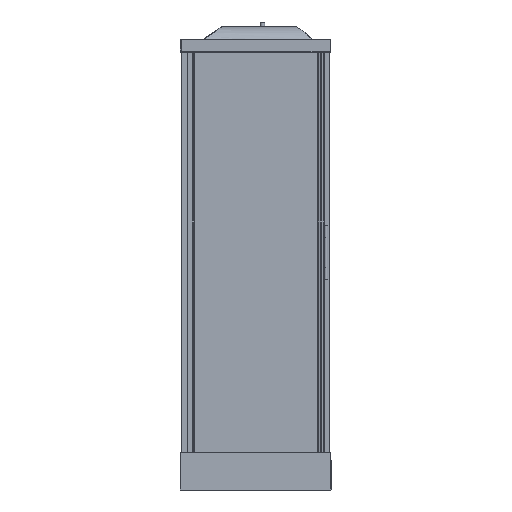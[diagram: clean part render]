
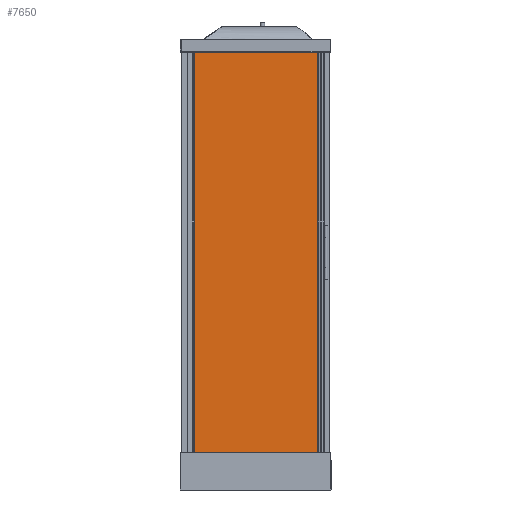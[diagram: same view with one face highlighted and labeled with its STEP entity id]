
A CAD part, left-side view. The second image highlights one B-rep face of the part: STEP entity #7650.
In plain terms, the highlighted planar face has unit normal (-1, 0, 0).
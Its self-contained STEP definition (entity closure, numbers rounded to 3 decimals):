
#7530=CARTESIAN_POINT('',(-961.316,-57.31,163.888));
#7531=VERTEX_POINT('',#7530);
#7538=CARTESIAN_POINT('',(-961.316,-57.31,2060.888));
#7539=VERTEX_POINT('',#7538);
#7540=CARTESIAN_POINT('',(-961.316,-57.31,2060.888));
#7541=DIRECTION('',(0.0,0.0,-1.0));
#7542=VECTOR('',#7541,1897.0);
#7543=LINE('',#7540,#7542);
#7544=EDGE_CURVE('',#7539,#7531,#7543,.T.);
#7568=CARTESIAN_POINT('',(-961.316,-650.31,163.888));
#7569=VERTEX_POINT('',#7568);
#7576=CARTESIAN_POINT('',(-961.316,-57.31,163.888));
#7577=DIRECTION('',(0.0,-1.0,0.0));
#7578=VECTOR('',#7577,593.0);
#7579=LINE('',#7576,#7578);
#7580=EDGE_CURVE('',#7531,#7569,#7579,.T.);
#7599=CARTESIAN_POINT('',(-961.316,-650.31,2060.888));
#7600=VERTEX_POINT('',#7599);
#7607=CARTESIAN_POINT('',(-961.316,-650.31,163.888));
#7608=DIRECTION('',(0.0,0.0,1.0));
#7609=VECTOR('',#7608,1897.0);
#7610=LINE('',#7607,#7609);
#7611=EDGE_CURVE('',#7569,#7600,#7610,.T.);
#7629=CARTESIAN_POINT('',(-961.316,-650.31,2060.888));
#7630=DIRECTION('',(0.0,1.0,0.0));
#7631=VECTOR('',#7630,593.0);
#7632=LINE('',#7629,#7631);
#7633=EDGE_CURVE('',#7600,#7539,#7632,.T.);
#7639=CARTESIAN_POINT('',(-961.316,-27.66,69.038));
#7640=DIRECTION('',(-1.0,0.0,0.0));
#7641=DIRECTION('',(0.0,-1.0,0.0));
#7642=AXIS2_PLACEMENT_3D('',#7639,#7640,#7641);
#7643=PLANE('',#7642);
#7644=ORIENTED_EDGE('',*,*,#7544,.T.);
#7645=ORIENTED_EDGE('',*,*,#7580,.T.);
#7646=ORIENTED_EDGE('',*,*,#7611,.T.);
#7647=ORIENTED_EDGE('',*,*,#7633,.T.);
#7648=EDGE_LOOP('',(#7644,#7645,#7646,#7647));
#7649=FACE_OUTER_BOUND('',#7648,.T.);
#7650=ADVANCED_FACE('',(#7649),#7643,.T.);
